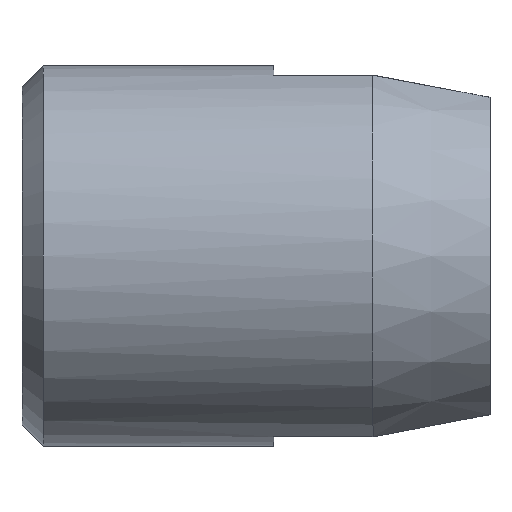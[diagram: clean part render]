
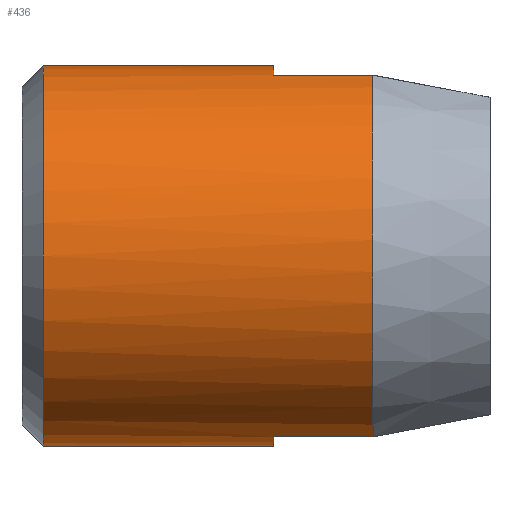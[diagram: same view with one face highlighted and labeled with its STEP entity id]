
A CAD part, front view. The second image highlights one B-rep face of the part: STEP entity #436.
In plain terms, the highlighted cylindrical face has radius 3.25 mm (diameter 6.5 mm), a partial arc.
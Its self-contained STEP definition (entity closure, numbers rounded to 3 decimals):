
#10 = CARTESIAN_POINT ( 'NONE',  ( -2., 0., 0. ) ) ;
#23 = DIRECTION ( 'NONE',  ( 1., 0., 0. ) ) ;
#32 = DIRECTION ( 'NONE',  ( 1., 0., 0. ) ) ;
#60 = VERTEX_POINT ( 'NONE', #269 ) ;
#73 = VERTEX_POINT ( 'NONE', #485 ) ;
#83 = AXIS2_PLACEMENT_3D ( 'NONE', #135, #320, #430 ) ;
#95 = AXIS2_PLACEMENT_3D ( 'NONE', #662, #23, #690 ) ;
#111 = DIRECTION ( 'NONE',  ( 0., 0., 1. ) ) ;
#113 = EDGE_LOOP ( 'NONE', ( #363, #472, #525, #494, #463, #697, #511, #616 ) ) ;
#133 = AXIS2_PLACEMENT_3D ( 'NONE', #699, #291, #111 ) ;
#135 = CARTESIAN_POINT ( 'NONE',  ( 21.562, 0., 0. ) ) ;
#154 = EDGE_CURVE ( 'NONE', #694, #60, #563, .T. ) ;
#174 = VERTEX_POINT ( 'NONE', #459 ) ;
#186 = EDGE_CURVE ( 'NONE', #532, #174, #704, .T. ) ;
#200 = CARTESIAN_POINT ( 'NONE',  ( -3.7, -1., -3.092 ) ) ;
#208 = DIRECTION ( 'NONE',  ( 0., 0., 1. ) ) ;
#227 = CARTESIAN_POINT ( 'NONE',  ( 21.562, -1., -3.092 ) ) ;
#259 = EDGE_CURVE ( 'NONE', #310, #73, #674, .T. ) ;
#262 = AXIS2_PLACEMENT_3D ( 'NONE', #350, #32, #208 ) ;
#268 = LINE ( 'NONE', #495, #413 ) ;
#269 = CARTESIAN_POINT ( 'NONE',  ( -3.7, 0., -3.25 ) ) ;
#283 = DIRECTION ( 'NONE',  ( 1., 0., 0. ) ) ;
#291 = DIRECTION ( 'NONE',  ( 1., 0., 0. ) ) ;
#308 = CIRCLE ( 'NONE', #95, 3.25 ) ;
#310 = VERTEX_POINT ( 'NONE', #630 ) ;
#320 = DIRECTION ( 'NONE',  ( 1., 0., 0. ) ) ;
#350 = CARTESIAN_POINT ( 'NONE',  ( -3.7, 0., 0. ) ) ;
#363 = ORIENTED_EDGE ( 'NONE', *, *, #744, .F. ) ;
#368 = CARTESIAN_POINT ( 'NONE',  ( -7.64, 0., -3.25 ) ) ;
#372 = VECTOR ( 'NONE', #441, 1000. ) ;
#382 = VERTEX_POINT ( 'NONE', #200 ) ;
#394 = VERTEX_POINT ( 'NONE', #608 ) ;
#413 = VECTOR ( 'NONE', #283, 1000. ) ;
#430 = DIRECTION ( 'NONE',  ( 0., 0., -1. ) ) ;
#435 = FACE_OUTER_BOUND ( 'NONE', #113, .T. ) ;
#436 = ADVANCED_FACE ( 'NONE', ( #435 ), #669, .T. ) ;
#441 = DIRECTION ( 'NONE',  ( 1., 0., 0. ) ) ;
#446 = CIRCLE ( 'NONE', #262, 3.25 ) ;
#457 = EDGE_CURVE ( 'NONE', #394, #694, #308, .T. ) ;
#459 = CARTESIAN_POINT ( 'NONE',  ( -2., -1., -3.092 ) ) ;
#461 = DIRECTION ( 'NONE',  ( -1., 0., 0. ) ) ;
#463 = ORIENTED_EDGE ( 'NONE', *, *, #598, .F. ) ;
#472 = ORIENTED_EDGE ( 'NONE', *, *, #457, .T. ) ;
#480 = EDGE_CURVE ( 'NONE', #73, #532, #268, .T. ) ;
#485 = CARTESIAN_POINT ( 'NONE',  ( -3.7, -1., 3.092 ) ) ;
#494 = ORIENTED_EDGE ( 'NONE', *, *, #618, .F. ) ;
#495 = CARTESIAN_POINT ( 'NONE',  ( 21.562, -1., 3.092 ) ) ;
#497 = DIRECTION ( 'NONE',  ( 1., 0., 0. ) ) ;
#501 = CARTESIAN_POINT ( 'NONE',  ( 21.562, 0., -3.25 ) ) ;
#504 = CARTESIAN_POINT ( 'NONE',  ( -2., -1., 3.092 ) ) ;
#511 = ORIENTED_EDGE ( 'NONE', *, *, #480, .F. ) ;
#525 = ORIENTED_EDGE ( 'NONE', *, *, #154, .T. ) ;
#532 = VERTEX_POINT ( 'NONE', #504 ) ;
#557 = CARTESIAN_POINT ( 'NONE',  ( 21.562, 0., 3.25 ) ) ;
#563 = LINE ( 'NONE', #501, #372 ) ;
#579 = DIRECTION ( 'NONE',  ( 0., 0., -1. ) ) ;
#583 = DIRECTION ( 'NONE',  ( 1., 0., 0. ) ) ;
#598 = EDGE_CURVE ( 'NONE', #174, #382, #743, .T. ) ;
#608 = CARTESIAN_POINT ( 'NONE',  ( -7.64, 0., 3.25 ) ) ;
#611 = VECTOR ( 'NONE', #461, 1000. ) ;
#616 = ORIENTED_EDGE ( 'NONE', *, *, #259, .F. ) ;
#618 = EDGE_CURVE ( 'NONE', #382, #60, #446, .T. ) ;
#623 = AXIS2_PLACEMENT_3D ( 'NONE', #10, #583, #579 ) ;
#626 = VECTOR ( 'NONE', #497, 1000. ) ;
#630 = CARTESIAN_POINT ( 'NONE',  ( -3.7, 0., 3.25 ) ) ;
#662 = CARTESIAN_POINT ( 'NONE',  ( -7.64, 0., 0. ) ) ;
#669 = CYLINDRICAL_SURFACE ( 'NONE', #83, 3.25 ) ;
#674 = CIRCLE ( 'NONE', #133, 3.25 ) ;
#690 = DIRECTION ( 'NONE',  ( 0., 0., 1. ) ) ;
#694 = VERTEX_POINT ( 'NONE', #368 ) ;
#697 = ORIENTED_EDGE ( 'NONE', *, *, #186, .F. ) ;
#699 = CARTESIAN_POINT ( 'NONE',  ( -3.7, 0., 0. ) ) ;
#704 = CIRCLE ( 'NONE', #623, 3.25 ) ;
#738 = LINE ( 'NONE', #557, #626 ) ;
#743 = LINE ( 'NONE', #227, #611 ) ;
#744 = EDGE_CURVE ( 'NONE', #394, #310, #738, .T. ) ;
